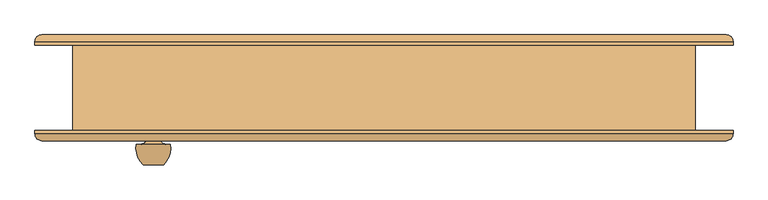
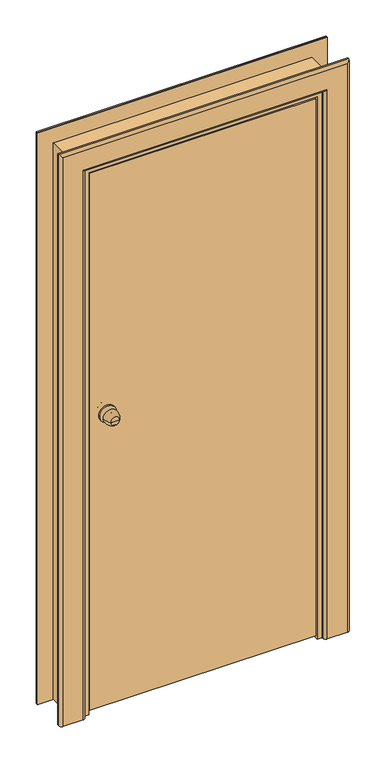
"""IFC4 building model written with IfcOpenShell, lengths in millimetres: door geometry, Внутренняя дверь 1-Навесная - 6629-88 : ДГ 21-9  ГОСТ 6629-88."""

from ifc_helpers import new_model, si_unit, point, frame, origin, place, context, project, spatial, polyline, circle_curve, ellipse_curve, trimmed, outline, extrude, faceted_brep, source, transform, mapped, element, save
from ifc_brep_helpers import plane_surface, cylinder_surface, revolved_surface, advanced_brep


def door_53fc3f74(model_context):
    return source(origin(), model_context, "Body", "SolidModel", [
        advanced_brep(
        [(-322.0, -112.5, 1100.0), (-352.0, -112.5, 1100.0), (-337.0, -112.5, 1100.0), (-312.0, -82.5, 1100.0), (-362.0, -82.5, 1100.0), (-319.0, -82.5, 1100.0), (-355.0, -82.5, 1100.0), (-327.0, -74.5, 1100.0), (-347.0, -74.5, 1100.0), (-327.0, -68.5, 1100.0), (-347.0, -68.5, 1100.0), (-367.0, -68.5, 1100.0), (-307.0, -68.5, 1100.0), (-367.0, -62.5, 1100.0), (-307.0, -62.5, 1100.0)],
        [
            (0, 1, circle_curve(frame((-337.0, -112.5, 1100.0), z_axis=(0.0, -1.0, 0.0), x_axis=(-1.0, 0.0, 0.0)), 15.0)),
            (1, 2),
            (2, 0),
            (1, 0, circle_curve(frame((-337.0, -112.5, 1100.0), z_axis=(0.0, -1.0, 0.0), x_axis=(-1.0, 0.0, 0.0)), 15.0)),
            (0, 3, circle_curve(frame((-346.6226265, -87.6257912, 1100.0), z_axis=(0.0, 0.0, 1.0), x_axis=(-1.0, 0.0, 0.0)), 35.0)),
            (3, 4, circle_curve(frame((-337.0, -82.5, 1100.0), z_axis=(0.0, -1.0, 0.0), x_axis=(-1.0, 0.0, 0.0)), 25.0)),
            (4, 1, circle_curve(frame((-327.3773735, -87.6257912, 1100.0), z_axis=(0.0, 0.0, 1.0), x_axis=(1.0, 0.0, 0.0)), 35.0)),
            (4, 3, circle_curve(frame((-337.0, -82.5, 1100.0), z_axis=(0.0, -1.0, 0.0), x_axis=(-1.0, 0.0, 0.0)), 25.0)),
            (3, 5),
            (5, 6, circle_curve(frame((-337.0, -82.5, 1100.0), z_axis=(0.0, -1.0, 0.0), x_axis=(-1.0, 0.0, 0.0)), 18.0)),
            (6, 4),
            (6, 5, circle_curve(frame((-337.0, -82.5, 1100.0), z_axis=(0.0, -1.0, 0.0), x_axis=(-1.0, 0.0, 0.0)), 18.0)),
            (5, 7, circle_curve(frame((-319.0, -74.5, 1100.0), z_axis=(0.0, 0.0, -1.0), x_axis=(-1.0, 0.0, 0.0)), 8.0)),
            (7, 8, circle_curve(frame((-337.0, -74.5, 1100.0), z_axis=(0.0, -1.0, 0.0), x_axis=(-1.0, 0.0, 0.0)), 10.0)),
            (8, 6, circle_curve(frame((-355.0, -74.5, 1100.0), z_axis=(0.0, 0.0, -1.0), x_axis=(1.0, 0.0, 0.0)), 8.0)),
            (8, 7, circle_curve(frame((-337.0, -74.5, 1100.0), z_axis=(0.0, -1.0, 0.0), x_axis=(-1.0, 0.0, 0.0)), 10.0)),
            (7, 9),
            (9, 10, circle_curve(frame((-337.0, -68.5, 1100.0), z_axis=(0.0, -1.0, 0.0), x_axis=(-1.0, 0.0, 0.0)), 10.0)),
            (10, 8),
            (10, 9, circle_curve(frame((-337.0, -68.5, 1100.0), z_axis=(0.0, -1.0, 0.0), x_axis=(-1.0, 0.0, 0.0)), 10.0)),
            (11, 12, circle_curve(frame((-337.0, -68.5, 1100.0), z_axis=(0.0, -1.0, 0.0), x_axis=(1.0, 0.0, 0.0)), 30.0)),
            (12, 11, circle_curve(frame((-337.0, -68.5, 1100.0), z_axis=(0.0, -1.0, 0.0), x_axis=(1.0, 0.0, 0.0)), 30.0)),
            (13, 14, circle_curve(frame((-337.0, -62.5, 1100.0), z_axis=(0.0, 1.0, 0.0), x_axis=(1.0, 0.0, 0.0)), 30.0)),
            (14, 13, circle_curve(frame((-337.0, -62.5, 1100.0), z_axis=(0.0, 1.0, 0.0), x_axis=(1.0, 0.0, 0.0)), 30.0)),
            (11, 13),
            (14, 12),
        ],
        [
            plane_surface(frame((-337.0, -112.5, 1100.0), z_axis=(0.0, -1.0, 0.0), x_axis=(-1.0, 0.0, 0.0))),
            revolved_surface(trimmed(ellipse_curve(frame((-327.3773735, -87.6257912, 1100.0), z_axis=(0.0, 0.0, -1.0), x_axis=(1.0, 0.0, 0.0)), 35.0, 35.0), [point((-352.0, -112.5, 1100.0))], [point((-362.0, -82.5, 1100.0))], True, "CARTESIAN"), (-337.0, -142.5, 1100.0), (0.0, 1.0, 0.0)),
            plane_surface(frame((-337.0, -82.5, 1100.0), z_axis=(0.0, 1.0, 0.0), x_axis=(-1.0, 0.0, 0.0))),
            revolved_surface(trimmed(ellipse_curve(frame((-355.0, -74.5, 1100.0), z_axis=(0.0, 0.0, 1.0), x_axis=(1.0, 0.0, 0.0)), 8.0, 8.0), [point((-355.0, -82.5, 1100.0))], [point((-347.0, -74.5, 1100.0))], True, "CARTESIAN"), (-337.0, -142.5, 1100.0), (0.0, 1.0, 0.0)),
            cylinder_surface(frame((-337.0, -142.5, 1100.0), z_axis=(0.0, 1.0, 0.0), x_axis=(-1.0, 0.0, 0.0)), 10.0),
            plane_surface(frame((-307.0, -68.5, 1100.0), z_axis=(0.0, -1.0, 0.0), x_axis=(0.0, 0.0, 1.0))),
            plane_surface(frame((-307.0, -62.5, 1100.0), z_axis=(0.0, 1.0, 0.0), x_axis=(0.0, 0.0, -1.0))),
            cylinder_surface(frame((-337.0, -62.5, 1100.0), z_axis=(0.0, -1.0, 0.0), x_axis=(1.0, 0.0, 0.0)), 30.0),
        ],
        [
            (0, [[1, 2, 3]]),
            (0, [[-2, 4, -3]]),
            (1, [[-1, 5, 6, 7]]),
            (1, [[-4, -7, 8, -5]]),
            (2, [[-6, 9, 10, 11]]),
            (2, [[-8, -11, 12, -9]]),
            (3, [[-10, 13, 14, 15]]),
            (3, [[-12, -15, 16, -13]]),
            (4, [[-14, 17, 18, 19]]),
            (4, [[-16, -19, 20, -17]]),
            (5, [[21, 22], [-18, -20]]),
            (6, [[23, 24]]),
            (7, [[-21, 25, -24, 26]]),
            (7, [[-22, -26, -23, -25]]),
        ],
    ),
        advanced_brep(
        [(-352.0, 24.5, 1100.0), (-322.0, 24.5, 1100.0), (-337.0, 24.5, 1100.0), (-362.0, -5.5, 1100.0), (-312.0, -5.5, 1100.0), (-355.0, -5.5, 1100.0), (-319.0, -5.5, 1100.0), (-347.0, -13.5, 1100.0), (-327.0, -13.5, 1100.0), (-347.0, -19.5, 1100.0), (-327.0, -19.5, 1100.0), (-307.0, -19.5, 1100.0), (-367.0, -19.5, 1100.0), (-307.0, -25.5, 1100.0), (-367.0, -25.5, 1100.0)],
        [
            (0, 1, circle_curve(frame((-337.0, 24.5, 1100.0), z_axis=(0.0, 1.0, 0.0), x_axis=(1.0, 0.0, 0.0)), 15.0)),
            (1, 2),
            (2, 0),
            (1, 0, circle_curve(frame((-337.0, 24.5, 1100.0), z_axis=(0.0, 1.0, 0.0), x_axis=(1.0, 0.0, 0.0)), 15.0)),
            (0, 3, circle_curve(frame((-327.3773735, -0.3742088, 1100.0), z_axis=(0.0, 0.0, 1.0), x_axis=(1.0, 0.0, 0.0)), 35.0)),
            (3, 4, circle_curve(frame((-337.0, -5.5, 1100.0), z_axis=(0.0, 1.0, 0.0), x_axis=(1.0, 0.0, 0.0)), 25.0)),
            (4, 1, circle_curve(frame((-346.6226265, -0.3742088, 1100.0), z_axis=(0.0, 0.0, 1.0), x_axis=(-1.0, 0.0, 0.0)), 35.0)),
            (4, 3, circle_curve(frame((-337.0, -5.5, 1100.0), z_axis=(0.0, 1.0, 0.0), x_axis=(1.0, 0.0, 0.0)), 25.0)),
            (3, 5),
            (5, 6, circle_curve(frame((-337.0, -5.5, 1100.0), z_axis=(0.0, 1.0, 0.0), x_axis=(1.0, 0.0, 0.0)), 18.0)),
            (6, 4),
            (6, 5, circle_curve(frame((-337.0, -5.5, 1100.0), z_axis=(0.0, 1.0, 0.0), x_axis=(1.0, 0.0, 0.0)), 18.0)),
            (5, 7, circle_curve(frame((-355.0, -13.5, 1100.0), z_axis=(0.0, 0.0, -1.0), x_axis=(1.0, 0.0, 0.0)), 8.0)),
            (7, 8, circle_curve(frame((-337.0, -13.5, 1100.0), z_axis=(0.0, 1.0, 0.0), x_axis=(1.0, 0.0, 0.0)), 10.0)),
            (8, 6, circle_curve(frame((-319.0, -13.5, 1100.0), z_axis=(0.0, 0.0, -1.0), x_axis=(-1.0, 0.0, 0.0)), 8.0)),
            (8, 7, circle_curve(frame((-337.0, -13.5, 1100.0), z_axis=(0.0, 1.0, 0.0), x_axis=(1.0, 0.0, 0.0)), 10.0)),
            (7, 9),
            (9, 10, circle_curve(frame((-337.0, -19.5, 1100.0), z_axis=(0.0, 1.0, 0.0), x_axis=(1.0, 0.0, 0.0)), 10.0)),
            (10, 8),
            (10, 9, circle_curve(frame((-337.0, -19.5, 1100.0), z_axis=(0.0, 1.0, 0.0), x_axis=(1.0, 0.0, 0.0)), 10.0)),
            (11, 12, circle_curve(frame((-337.0, -19.5, 1100.0), z_axis=(0.0, 1.0, 0.0), x_axis=(-1.0, 0.0, 0.0)), 30.0)),
            (12, 11, circle_curve(frame((-337.0, -19.5, 1100.0), z_axis=(0.0, 1.0, 0.0), x_axis=(-1.0, 0.0, 0.0)), 30.0)),
            (13, 14, circle_curve(frame((-337.0, -25.5, 1100.0), z_axis=(0.0, -1.0, 0.0), x_axis=(-1.0, 0.0, 0.0)), 30.0)),
            (14, 13, circle_curve(frame((-337.0, -25.5, 1100.0), z_axis=(0.0, -1.0, 0.0), x_axis=(-1.0, 0.0, 0.0)), 30.0)),
            (11, 13),
            (14, 12),
        ],
        [
            plane_surface(frame((-337.0, 24.5, 1100.0), z_axis=(0.0, 1.0, 0.0), x_axis=(1.0, 0.0, 0.0))),
            revolved_surface(trimmed(ellipse_curve(frame((-346.6226265, -0.3742088, 1100.0), z_axis=(0.0, 0.0, -1.0), x_axis=(-1.0, 0.0, 0.0)), 35.0, 35.0), [point((-322.0, 24.5, 1100.0))], [point((-312.0, -5.5, 1100.0))], True, "CARTESIAN"), (-337.0, 54.5, 1100.0), (0.0, -1.0, 0.0)),
            plane_surface(frame((-337.0, -5.5, 1100.0), z_axis=(0.0, -1.0, 0.0), x_axis=(1.0, 0.0, 0.0))),
            revolved_surface(trimmed(ellipse_curve(frame((-319.0, -13.5, 1100.0), z_axis=(0.0, 0.0, 1.0), x_axis=(-1.0, 0.0, 0.0)), 8.0, 8.0), [point((-319.0, -5.5, 1100.0))], [point((-327.0, -13.5, 1100.0))], True, "CARTESIAN"), (-337.0, 54.5, 1100.0), (0.0, -1.0, 0.0)),
            cylinder_surface(frame((-337.0, 54.5, 1100.0), z_axis=(0.0, -1.0, 0.0), x_axis=(1.0, 0.0, 0.0)), 10.0),
            plane_surface(frame((-367.0, -19.5, 1100.0), z_axis=(0.0, 1.0, 0.0), x_axis=(0.0, 0.0, 1.0))),
            plane_surface(frame((-367.0, -25.5, 1100.0), z_axis=(0.0, -1.0, 0.0), x_axis=(0.0, 0.0, -1.0))),
            cylinder_surface(frame((-337.0, -25.5, 1100.0), z_axis=(0.0, 1.0, 0.0), x_axis=(-1.0, 0.0, 0.0)), 30.0),
        ],
        [
            (0, [[1, 2, 3]]),
            (0, [[-2, 4, -3]]),
            (1, [[-1, 5, 6, 7]]),
            (1, [[-4, -7, 8, -5]]),
            (2, [[-6, 9, 10, 11]]),
            (2, [[-8, -11, 12, -9]]),
            (3, [[-10, 13, 14, 15]]),
            (3, [[-12, -15, 16, -13]]),
            (4, [[-14, 17, 18, 19]]),
            (4, [[-16, -19, 20, -17]]),
            (5, [[21, 22], [-18, -20]]),
            (6, [[23, 24]]),
            (7, [[-21, 25, -24, 26]]),
            (7, [[-22, -26, -23, -25]]),
        ],
    ),
        extrude(outline(polyline([(0.0, 420.0), (0.0, 435.0), (2050.0, 435.0), (2050.0, -435.0), (0.0, -435.0), (0.0, -420.0), (2035.0, -420.0), (2035.0, 420.0), (0.0, 420.0)])), frame((0.0, 11.5, 0.0), z_axis=(0.0, 1.0, 0.0), x_axis=(0.0, 0.0, 1.0)), (0.0, 0.0, 1.0), 51.0),
        advanced_brep(
        [(-510.0, -62.5, 0.0), (-420.0, -62.5, 0.0), (-420.0, -67.5, 0.0), (-430.0, -77.5, 0.0), (-500.0, -77.5, 0.0), (-510.0, -67.5, 0.0), (-510.0, -62.5, 2125.0), (510.0, -62.5, 2125.0), (510.0, -62.5, 0.0), (420.0, -62.5, 0.0), (420.0, -62.5, 2035.0), (-420.0, -62.5, 2035.0), (-420.0, -67.5, 2035.0), (-430.0, -77.5, 2045.0), (430.0, -77.5, 2045.0), (430.0, -77.5, 0.0), (500.0, -77.5, 0.0), (500.0, -77.5, 2115.0), (-500.0, -77.5, 2115.0), (-510.0, -67.5, 2125.0), (510.0, -67.5, 2125.0), (510.0, -67.5, 0.0), (420.0, -67.5, 0.0), (420.0, -67.5, 2035.0)],
        [
            (0, 1),
            (1, 2),
            (2, 3, circle_curve(frame((-430.0, -67.5, 0.0), z_axis=(0.0, 0.0, -1.0), x_axis=(-1.0, 0.0, 0.0)), 10.0)),
            (3, 4),
            (4, 5, circle_curve(frame((-500.0, -67.5, 0.0), z_axis=(0.0, 0.0, -1.0), x_axis=(-1.0, 0.0, 0.0)), 10.0)),
            (5, 0),
            (0, 6),
            (6, 7),
            (7, 8),
            (8, 9),
            (9, 10),
            (10, 11),
            (11, 1),
            (11, 12),
            (12, 2),
            (12, 13, ellipse_curve(frame((-430.0, -67.5, 2045.0), z_axis=(-0.7071067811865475, 0.0, -0.7071067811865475), x_axis=(0.7071067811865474, 0.0, -0.7071067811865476)), 14.1421356, 10.0)),
            (13, 3),
            (13, 14),
            (14, 15),
            (15, 16),
            (16, 17),
            (17, 18),
            (18, 4),
            (18, 19, ellipse_curve(frame((-500.0, -67.5, 2115.0), z_axis=(-0.7071067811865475, 0.0, -0.7071067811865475), x_axis=(0.7071067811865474, 0.0, -0.7071067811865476)), 14.1421356, 10.0)),
            (19, 5),
            (19, 6),
            (7, 20),
            (20, 21),
            (21, 8),
            (21, 16, circle_curve(frame((500.0, -67.5, 0.0), z_axis=(0.0, 0.0, -1.0), x_axis=(1.0, 0.0, 0.0)), 10.0)),
            (15, 22, circle_curve(frame((430.0, -67.5, 0.0), z_axis=(0.0, 0.0, -1.0), x_axis=(1.0, 0.0, 0.0)), 10.0)),
            (22, 9),
            (23, 10),
            (22, 23),
            (14, 23, ellipse_curve(frame((430.0, -67.5, 2045.0), z_axis=(0.7071067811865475, 0.0, -0.7071067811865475), x_axis=(0.7071067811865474, 0.0, 0.7071067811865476)), 14.1421356, 10.0)),
            (20, 17, ellipse_curve(frame((500.0, -67.5, 2115.0), z_axis=(0.7071067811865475, 0.0, -0.7071067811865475), x_axis=(0.7071067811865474, 0.0, 0.7071067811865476)), 14.1421356, 10.0)),
            (23, 12),
            (20, 19),
        ],
        [
            plane_surface(frame((-455.0, -62.5, 0.0), z_axis=(0.0, 0.0, -1.0), x_axis=(0.0, 1.0, 0.0))),
            plane_surface(frame((-510.0, -62.5, 0.0), z_axis=(0.0, 1.0, 0.0), x_axis=(0.0, 0.0, 1.0))),
            plane_surface(frame((-420.0, -62.5, 0.0), z_axis=(1.0, 0.0, 0.0), x_axis=(0.0, 0.0, 1.0))),
            cylinder_surface(frame((-430.0, -67.5, 0.0), z_axis=(0.0, 0.0, -1.0), x_axis=(-1.0, 0.0, 0.0)), 10.0),
            plane_surface(frame((-430.0, -77.5, 0.0), z_axis=(0.0, -1.0, 0.0), x_axis=(0.0, 0.0, 1.0))),
            cylinder_surface(frame((-500.0, -67.5, 0.0), z_axis=(0.0, 0.0, -1.0), x_axis=(-1.0, 0.0, 0.0)), 10.0),
            plane_surface(frame((-510.0, -67.5, 0.0), z_axis=(-1.0, 0.0, 0.0), x_axis=(0.0, 0.0, 1.0))),
            plane_surface(frame((510.0, -67.5, 2125.0), z_axis=(1.0, 0.0, 0.0), x_axis=(0.0, 0.0, -1.0))),
            plane_surface(frame((455.0, -62.5, 0.0), z_axis=(0.0, 0.0, -1.0), x_axis=(0.0, 1.0, 0.0))),
            plane_surface(frame((420.0, -62.5, 2035.0), z_axis=(-1.0, 0.0, 0.0), x_axis=(0.0, 0.0, -1.0))),
            cylinder_surface(frame((430.0, -67.5, 2070.0), z_axis=(0.0, 0.0, 1.0), x_axis=(1.0, 0.0, 0.0)), 10.0),
            cylinder_surface(frame((500.0, -67.5, 2070.0), z_axis=(0.0, 0.0, 1.0), x_axis=(1.0, 0.0, 0.0)), 10.0),
            plane_surface(frame((-420.0, -62.5, 2035.0), z_axis=(0.0, 0.0, -1.0), x_axis=(1.0, 0.0, 0.0))),
            cylinder_surface(frame((-455.0, -67.5, 2045.0), z_axis=(-1.0, 0.0, 0.0), x_axis=(0.0, 0.0, 1.0)), 10.0),
            cylinder_surface(frame((-455.0, -67.5, 2115.0), z_axis=(-1.0, 0.0, 0.0), x_axis=(0.0, 0.0, 1.0)), 10.0),
            plane_surface(frame((-510.0, -67.5, 2125.0), z_axis=(0.0, 0.0, 1.0), x_axis=(1.0, 0.0, 0.0))),
        ],
        [
            (0, [[1, 2, 3, 4, 5, 6]]),
            (1, [[-1, 7, 8, 9, 10, 11, 12, 13]]),
            (2, [[-2, -13, 14, 15]]),
            (3, [[-3, -15, 16, 17]]),
            (4, [[-4, -17, 18, 19, 20, 21, 22, 23]]),
            (5, [[-5, -23, 24, 25]]),
            (6, [[-6, -25, 26, -7]]),
            (7, [[27, 28, 29, -9]]),
            (8, [[-29, 30, -20, 31, 32, -10]]),
            (9, [[33, -11, -32, 34]]),
            (10, [[35, -34, -31, -19]]),
            (11, [[36, -21, -30, -28]]),
            (12, [[-14, -12, -33, 37]]),
            (13, [[-16, -37, -35, -18]]),
            (14, [[-24, -22, -36, 38]]),
            (15, [[-26, -38, -27, -8]]),
        ],
    ),
        advanced_brep(
        [(510.0, 62.5, 0.0), (420.0, 62.5, 0.0), (420.0, 67.5, 0.0), (430.0, 77.5, 0.0), (500.0, 77.5, 0.0), (510.0, 67.5, 0.0), (510.0, 62.5, 2125.0), (-510.0, 62.5, 2125.0), (-510.0, 62.5, 0.0), (-420.0, 62.5, 0.0), (-420.0, 62.5, 2035.0), (420.0, 62.5, 2035.0), (420.0, 67.5, 2035.0), (430.0, 77.5, 2045.0), (-430.0, 77.5, 2045.0), (-430.0, 77.5, 0.0), (-500.0, 77.5, 0.0), (-500.0, 77.5, 2115.0), (500.0, 77.5, 2115.0), (510.0, 67.5, 2125.0), (-510.0, 67.5, 2125.0), (-510.0, 67.5, 0.0), (-420.0, 67.5, 0.0), (-420.0, 67.5, 2035.0)],
        [
            (0, 1),
            (1, 2),
            (2, 3, circle_curve(frame((430.0, 67.5, 0.0), z_axis=(0.0, 0.0, -1.0), x_axis=(1.0, 0.0, 0.0)), 10.0)),
            (3, 4),
            (4, 5, circle_curve(frame((500.0, 67.5, 0.0), z_axis=(0.0, 0.0, -1.0), x_axis=(1.0, 0.0, 0.0)), 10.0)),
            (5, 0),
            (0, 6),
            (6, 7),
            (7, 8),
            (8, 9),
            (9, 10),
            (10, 11),
            (11, 1),
            (11, 12),
            (12, 2),
            (12, 13, ellipse_curve(frame((430.0, 67.5, 2045.0), z_axis=(0.7071067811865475, 0.0, -0.7071067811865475), x_axis=(-0.7071067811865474, 0.0, -0.7071067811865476)), 14.1421356, 10.0)),
            (13, 3),
            (13, 14),
            (14, 15),
            (15, 16),
            (16, 17),
            (17, 18),
            (18, 4),
            (18, 19, ellipse_curve(frame((500.0, 67.5, 2115.0), z_axis=(0.7071067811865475, 0.0, -0.7071067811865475), x_axis=(-0.7071067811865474, 0.0, -0.7071067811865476)), 14.1421356, 10.0)),
            (19, 5),
            (19, 6),
            (7, 20),
            (20, 21),
            (21, 8),
            (21, 16, circle_curve(frame((-500.0, 67.5, 0.0), z_axis=(0.0, 0.0, -1.0), x_axis=(-1.0, 0.0, 0.0)), 10.0)),
            (15, 22, circle_curve(frame((-430.0, 67.5, 0.0), z_axis=(0.0, 0.0, -1.0), x_axis=(-1.0, 0.0, 0.0)), 10.0)),
            (22, 9),
            (23, 10),
            (22, 23),
            (14, 23, ellipse_curve(frame((-430.0, 67.5, 2045.0), z_axis=(-0.7071067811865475, 0.0, -0.7071067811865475), x_axis=(-0.7071067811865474, 0.0, 0.7071067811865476)), 14.1421356, 10.0)),
            (20, 17, ellipse_curve(frame((-500.0, 67.5, 2115.0), z_axis=(-0.7071067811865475, 0.0, -0.7071067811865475), x_axis=(-0.7071067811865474, 0.0, 0.7071067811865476)), 14.1421356, 10.0)),
            (23, 12),
            (20, 19),
        ],
        [
            plane_surface(frame((455.0, 62.5, 0.0), z_axis=(0.0, 0.0, -1.0), x_axis=(0.0, -1.0, 0.0))),
            plane_surface(frame((510.0, 62.5, 0.0), z_axis=(0.0, -1.0, 0.0), x_axis=(0.0, 0.0, 1.0))),
            plane_surface(frame((420.0, 62.5, 0.0), z_axis=(-1.0, 0.0, 0.0), x_axis=(0.0, 0.0, 1.0))),
            cylinder_surface(frame((430.0, 67.5, 0.0), z_axis=(0.0, 0.0, -1.0), x_axis=(1.0, 0.0, 0.0)), 10.0),
            plane_surface(frame((430.0, 77.5, 0.0), z_axis=(0.0, 1.0, 0.0), x_axis=(0.0, 0.0, 1.0))),
            cylinder_surface(frame((500.0, 67.5, 0.0), z_axis=(0.0, 0.0, -1.0), x_axis=(1.0, 0.0, 0.0)), 10.0),
            plane_surface(frame((510.0, 67.5, 0.0), z_axis=(1.0, 0.0, 0.0), x_axis=(0.0, 0.0, 1.0))),
            plane_surface(frame((-510.0, 67.5, 2125.0), z_axis=(-1.0, 0.0, 0.0), x_axis=(0.0, 0.0, -1.0))),
            plane_surface(frame((-455.0, 62.5, 0.0), z_axis=(0.0, 0.0, -1.0), x_axis=(0.0, -1.0, 0.0))),
            plane_surface(frame((-420.0, 62.5, 2035.0), z_axis=(1.0, 0.0, 0.0), x_axis=(0.0, 0.0, -1.0))),
            cylinder_surface(frame((-430.0, 67.5, 2070.0), z_axis=(0.0, 0.0, 1.0), x_axis=(-1.0, 0.0, 0.0)), 10.0),
            cylinder_surface(frame((-500.0, 67.5, 2070.0), z_axis=(0.0, 0.0, 1.0), x_axis=(-1.0, 0.0, 0.0)), 10.0),
            plane_surface(frame((420.0, 62.5, 2035.0), z_axis=(0.0, 0.0, -1.0), x_axis=(-1.0, 0.0, 0.0))),
            cylinder_surface(frame((455.0, 67.5, 2045.0), z_axis=(1.0, 0.0, 0.0), x_axis=(0.0, 0.0, 1.0)), 10.0),
            cylinder_surface(frame((455.0, 67.5, 2115.0), z_axis=(1.0, 0.0, 0.0), x_axis=(0.0, 0.0, 1.0)), 10.0),
            plane_surface(frame((510.0, 67.5, 2125.0), z_axis=(0.0, 0.0, 1.0), x_axis=(-1.0, 0.0, 0.0))),
        ],
        [
            (0, [[1, 2, 3, 4, 5, 6]]),
            (1, [[-1, 7, 8, 9, 10, 11, 12, 13]]),
            (2, [[-2, -13, 14, 15]]),
            (3, [[-3, -15, 16, 17]]),
            (4, [[-4, -17, 18, 19, 20, 21, 22, 23]]),
            (5, [[-5, -23, 24, 25]]),
            (6, [[-6, -25, 26, -7]]),
            (7, [[27, 28, 29, -9]]),
            (8, [[-29, 30, -20, 31, 32, -10]]),
            (9, [[33, -11, -32, 34]]),
            (10, [[35, -34, -31, -19]]),
            (11, [[36, -21, -30, -28]]),
            (12, [[-14, -12, -33, 37]]),
            (13, [[-16, -37, -35, -18]]),
            (14, [[-24, -22, -36, 38]]),
            (15, [[-26, -38, -27, -8]]),
        ],
    ),
        faceted_brep([(390.0, 11.5, 0.0), (435.0, 11.5, 0.0), (435.0, -62.5, 0.0), (402.0, -62.5, 0.0), (402.0, -20.5, 0.0), (390.0, -20.5, 0.0), (390.0, 11.5, 2005.0), (-390.0, 11.5, 2005.0), (-390.0, 11.5, 0.0), (-435.0, 11.5, 0.0), (-435.0, 11.5, 2050.0), (435.0, 11.5, 2050.0), (435.0, -62.5, 2050.0), (-435.0, -62.5, 2050.0), (-435.0, -62.5, 0.0), (-402.0, -62.5, 0.0), (-402.0, -62.5, 2017.0), (402.0, -62.5, 2017.0), (402.0, -20.5, 2017.0), (-402.0, -20.5, 2017.0), (-402.0, -20.5, 0.0), (-390.0, -20.5, 0.0), (-390.0, -20.5, 2005.0), (390.0, -20.5, 2005.0)], [[[0, 1, 2, 3, 4, 5]], [[1, 0, 6, 7, 8, 9, 10, 11]], [[2, 1, 11, 12]], [[3, 2, 12, 13, 14, 15, 16, 17]], [[4, 3, 17, 18]], [[5, 4, 18, 19, 20, 21, 22, 23]], [[0, 5, 23, 6]], [[7, 22, 21, 8]], [[8, 21, 20, 15, 14, 9]], [[13, 10, 9, 14]], [[19, 16, 15, 20]], [[12, 11, 10, 13]], [[18, 17, 16, 19]], [[6, 23, 22, 7]]]),
        extrude(outline(polyline([(0.0, 435.0), (0.0, 455.0), (2070.0, 455.0), (2070.0, -455.0), (0.0, -455.0), (0.0, -435.0), (2050.0, -435.0), (2050.0, 435.0), (0.0, 435.0)])), frame((0.0, -62.5, 0.0), z_axis=(0.0, 1.0, 0.0), x_axis=(0.0, 0.0, 1.0)), (0.0, 0.0, 1.0), 125.0),
        extrude(outline(polyline([(397.0, -25.5), (397.0, -62.5), (-397.0, -62.5), (-397.0, -25.5), (397.0, -25.5)])), frame((0.0, 0.0, 15.0), z_axis=(0.0, 0.0, 1.0), x_axis=(1.0, 0.0, 0.0)), (0.0, 0.0, 1.0), 1997.0),
    ])


if __name__ == "__main__":
    model = new_model("IFC4")
    model_context = context("Model", 3, world=origin())
    ifc_project = project(units=[si_unit("LENGTHUNIT", "METRE", prefix="MILLI")], contexts=[model_context])
    site = spatial("IfcSite", under=ifc_project)
    building = spatial("IfcBuilding", under=site)
    placement = place(None, origin())
    door_shape = door_53fc3f74(model_context)
    element("IfcDoor", 1, ObjectType="Внутренняя дверь 1-Навесная - 6629-88 : ДГ 21-9  ГОСТ 6629-88", at=placement, inside=building, context=model_context, shape_type="MappedRepresentation", body=[
        mapped(door_shape, transform((0.0, 0.0, 0.0), x_axis=(1.0, 0.0, 0.0), y_axis=(0.0, 1.0, 0.0), z_axis=(0.0, 0.0, 1.0))),
    ])
    save(model, "model.ifc")
